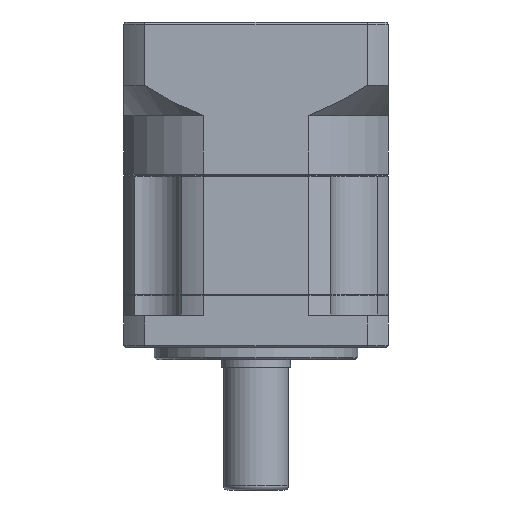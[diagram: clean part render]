
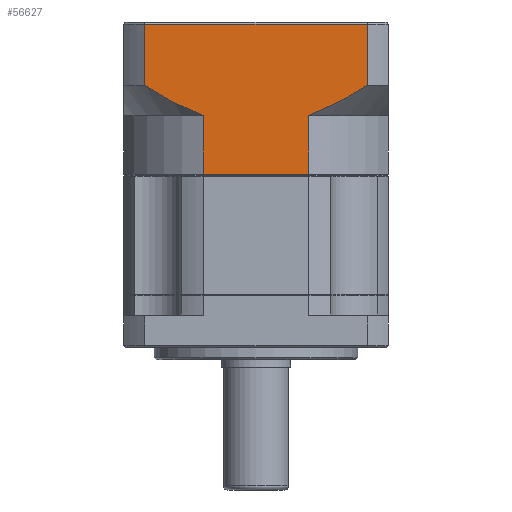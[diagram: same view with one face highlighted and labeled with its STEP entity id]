
A CAD part, front view. The second image highlights one B-rep face of the part: STEP entity #56627.
In plain terms, the highlighted planar face has unit normal (0, -1, 0).
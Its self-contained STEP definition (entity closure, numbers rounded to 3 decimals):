
#418 = AXIS2_PLACEMENT_3D ( 'NONE', #51684, #1738, #59928 ) ;
#1738 = DIRECTION ( 'NONE',  ( 0., 1., 0. ) ) ;
#2167 = VERTEX_POINT ( 'NONE', #35629 ) ;
#4459 = VERTEX_POINT ( 'NONE', #38319 ) ;
#4757 = CARTESIAN_POINT ( 'NONE',  ( 33.2, -33.003, 60.803 ) ) ;
#5555 = VECTOR ( 'NONE', #66341, 1000. ) ;
#6331 = VERTEX_POINT ( 'NONE', #93927 ) ;
#6495 = DIRECTION ( 'NONE',  ( 0., 0., -1. ) ) ;
#7349 = B_SPLINE_CURVE_WITH_KNOTS ( 'NONE', 3,
 ( #81385, #23739, #89540, #40577, #97614, #48941, #105762, #57253 ),
 .UNSPECIFIED., .F., .F.,
 ( 4, 2, 2, 4 ),
 ( 0.059, 0.063, 0.067, 0.075 ),
 .UNSPECIFIED. ) ;
#9956 = VERTEX_POINT ( 'NONE', #85307 ) ;
#10654 = CARTESIAN_POINT ( 'NONE',  ( 5.938, -33.003, 61.294 ) ) ;
#10693 = VERTEX_POINT ( 'NONE', #66722 ) ;
#11019 = CARTESIAN_POINT ( 'NONE',  ( 7.22, -33.003, 60.803 ) ) ;
#11627 = VERTEX_POINT ( 'NONE', #65882 ) ;
#12823 = VERTEX_POINT ( 'NONE', #4757 ) ;
#17228 = VECTOR ( 'NONE', #93808, 1000. ) ;
#17677 = VERTEX_POINT ( 'NONE', #65169 ) ;
#18120 = PLANE ( 'NONE',  #418 ) ;
#19116 = CARTESIAN_POINT ( 'NONE',  ( 4.054, -33.003, 62.093 ) ) ;
#21927 = DIRECTION ( 'NONE',  ( 0., 0., -1. ) ) ;
#23739 = CARTESIAN_POINT ( 'NONE',  ( 46.458, -33.003, 67.57 ) ) ;
#24890 = B_SPLINE_CURVE_WITH_KNOTS ( 'NONE', 3,
 ( #52281, #100925, #10654, #68784, #19116, #76873, #27499, #85014, #35896, #93110 ),
 .UNSPECIFIED., .F., .F.,
 ( 4, 2, 2, 2, 4 ),
 ( 0.101, 0.104, 0.106, 0.11, 0.118 ),
 .UNSPECIFIED. ) ;
#27499 = CARTESIAN_POINT ( 'NONE',  ( 0.988, -33.003, 63.548 ) ) ;
#27787 = LINE ( 'NONE', #65245, #5555 ) ;
#29111 = VECTOR ( 'NONE', #64650, 1000. ) ;
#30311 = CARTESIAN_POINT ( 'NONE',  ( 33.2, -33.003, 60.803 ) ) ;
#31691 = VECTOR ( 'NONE', #6495, 1000. ) ;
#35629 = CARTESIAN_POINT ( 'NONE',  ( 7.22, -33.003, 60.803 ) ) ;
#35896 = CARTESIAN_POINT ( 'NONE',  ( -4.907, -33.003, 66.841 ) ) ;
#37796 = FACE_OUTER_BOUND ( 'NONE', #96349, .T. ) ;
#38319 = CARTESIAN_POINT ( 'NONE',  ( 47.596, -33.003, 83.303 ) ) ;
#40577 = CARTESIAN_POINT ( 'NONE',  ( 42.97, -33.003, 65.469 ) ) ;
#45924 = LINE ( 'NONE', #30311, #84211 ) ;
#48941 = CARTESIAN_POINT ( 'NONE',  ( 38.191, -33.003, 62.89 ) ) ;
#51684 = CARTESIAN_POINT ( 'NONE',  ( 52.71, -33.003, 83.803 ) ) ;
#52281 = CARTESIAN_POINT ( 'NONE',  ( 7.22, -33.003, 60.803 ) ) ;
#52453 = LINE ( 'NONE', #104992, #31691 ) ;
#55058 = ORIENTED_EDGE ( 'NONE', *, *, #103932, .F. ) ;
#56627 = ADVANCED_FACE ( 'NONE', ( #37796 ), #18120, .F. ) ;
#57253 = CARTESIAN_POINT ( 'NONE',  ( 33.2, -33.003, 60.803 ) ) ;
#57971 = ORIENTED_EDGE ( 'NONE', *, *, #103945, .T. ) ;
#58177 = ORIENTED_EDGE ( 'NONE', *, *, #104102, .F. ) ;
#59834 = ORIENTED_EDGE ( 'NONE', *, *, #104243, .F. ) ;
#59928 = DIRECTION ( 'NONE',  ( -1., 0., 0. ) ) ;
#60129 = ORIENTED_EDGE ( 'NONE', *, *, #104265, .F. ) ;
#62250 = ORIENTED_EDGE ( 'NONE', *, *, #104389, .T. ) ;
#64650 = DIRECTION ( 'NONE',  ( -1., 0., 0. ) ) ;
#64945 = ORIENTED_EDGE ( 'NONE', *, *, #104574, .F. ) ;
#65169 = CARTESIAN_POINT ( 'NONE',  ( 33.2, -33.003, 46.392 ) ) ;
#65245 = CARTESIAN_POINT ( 'NONE',  ( -7.176, -33.003, 65.803 ) ) ;
#65261 = ORIENTED_EDGE ( 'NONE', *, *, #104695, .F. ) ;
#65882 = CARTESIAN_POINT ( 'NONE',  ( -7.176, -33.003, 83.303 ) ) ;
#66341 = DIRECTION ( 'NONE',  ( 0., 0., 1. ) ) ;
#66722 = CARTESIAN_POINT ( 'NONE',  ( -7.176, -33.003, 68.303 ) ) ;
#68784 = CARTESIAN_POINT ( 'NONE',  ( 4.678, -33.003, 61.82 ) ) ;
#69130 = DIRECTION ( 'NONE',  ( 0., 0., 1. ) ) ;
#74199 = LINE ( 'NONE', #11019, #93113 ) ;
#76873 = CARTESIAN_POINT ( 'NONE',  ( 2.201, -33.003, 62.943 ) ) ;
#81385 = CARTESIAN_POINT ( 'NONE',  ( 47.596, -33.003, 68.303 ) ) ;
#84211 = VECTOR ( 'NONE', #21927, 1000. ) ;
#85014 = CARTESIAN_POINT ( 'NONE',  ( -2.592, -33.003, 65.453 ) ) ;
#85307 = CARTESIAN_POINT ( 'NONE',  ( 7.22, -33.003, 46.392 ) ) ;
#86062 = CARTESIAN_POINT ( 'NONE',  ( 52.71, -33.003, 46.392 ) ) ;
#89540 = CARTESIAN_POINT ( 'NONE',  ( 45.306, -33.003, 66.854 ) ) ;
#93110 = CARTESIAN_POINT ( 'NONE',  ( -7.176, -33.003, 68.303 ) ) ;
#93113 = VECTOR ( 'NONE', #69130, 1000. ) ;
#93808 = DIRECTION ( 'NONE',  ( 1., 0., 0. ) ) ;
#93927 = CARTESIAN_POINT ( 'NONE',  ( 47.596, -33.003, 68.303 ) ) ;
#95621 = LINE ( 'NONE', #96828, #29111 ) ;
#96349 = EDGE_LOOP ( 'NONE', ( #55058, #57971, #58177, #59834, #60129, #62250, #64945, #65261 ) ) ;
#96828 = CARTESIAN_POINT ( 'NONE',  ( -7.176, -33.003, 83.303 ) ) ;
#97614 = CARTESIAN_POINT ( 'NONE',  ( 41.785, -33.003, 64.799 ) ) ;
#100925 = CARTESIAN_POINT ( 'NONE',  ( 6.577, -33.003, 61.042 ) ) ;
#101975 = LINE ( 'NONE', #86062, #17228 ) ;
#103932 = EDGE_CURVE ( 'NONE', #4459, #6331, #52453, .T. ) ;
#103945 = EDGE_CURVE ( 'NONE', #4459, #11627, #95621, .T. ) ;
#104102 = EDGE_CURVE ( 'NONE', #10693, #11627, #27787, .T. ) ;
#104243 = EDGE_CURVE ( 'NONE', #2167, #10693, #24890, .T. ) ;
#104265 = EDGE_CURVE ( 'NONE', #9956, #2167, #74199, .T. ) ;
#104389 = EDGE_CURVE ( 'NONE', #9956, #17677, #101975, .T. ) ;
#104574 = EDGE_CURVE ( 'NONE', #12823, #17677, #45924, .T. ) ;
#104695 = EDGE_CURVE ( 'NONE', #6331, #12823, #7349, .T. ) ;
#104992 = CARTESIAN_POINT ( 'NONE',  ( 47.596, -33.003, 65.803 ) ) ;
#105762 = CARTESIAN_POINT ( 'NONE',  ( 35.739, -33.003, 61.746 ) ) ;
